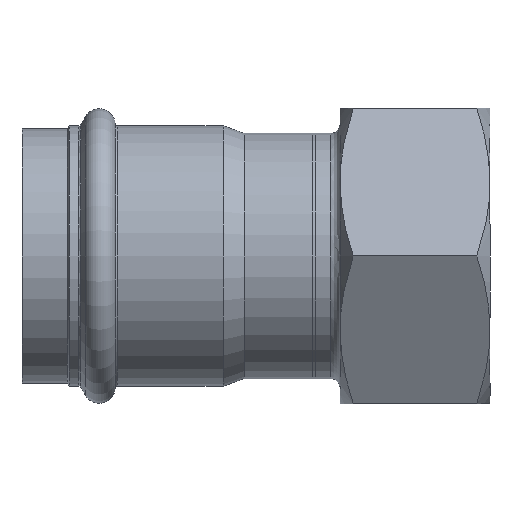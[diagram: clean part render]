
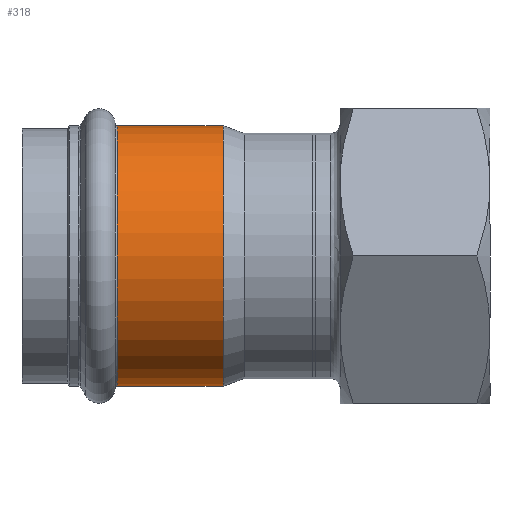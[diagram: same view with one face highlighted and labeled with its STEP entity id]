
A CAD part, front view. The second image highlights one B-rep face of the part: STEP entity #318.
In plain terms, the highlighted cylindrical face has radius 28.675 mm (diameter 57.35 mm), a full revolution.
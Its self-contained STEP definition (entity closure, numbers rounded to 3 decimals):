
#287=CARTESIAN_POINT('',(-32.009,28.675,0.));
#288=VERTEX_POINT('',#287);
#289=CARTESIAN_POINT('',(-32.009,0.0,0.0));
#290=DIRECTION('',(-1.0,0.0,0.0));
#291=DIRECTION('',(0.0,-1.0,0.0));
#292=AXIS2_PLACEMENT_3D('',#289,#290,#291);
#293=CIRCLE('',#292,28.675);
#294=EDGE_CURVE('',#288,#288,#293,.T.);
#299=CARTESIAN_POINT('',(-20.621,0.0,0.0));
#300=DIRECTION('',(1.0,0.0,0.0));
#301=DIRECTION('',(0.0,1.0,0.0));
#302=AXIS2_PLACEMENT_3D('',#299,#300,#301);
#303=CYLINDRICAL_SURFACE('',#302,28.675);
#304=CARTESIAN_POINT('',(-8.736,28.675,0.0));
#305=VERTEX_POINT('',#304);
#306=CARTESIAN_POINT('',(-8.736,0.0,0.0));
#307=DIRECTION('',(1.0,0.0,0.0));
#308=DIRECTION('',(0.0,1.0,0.0));
#309=AXIS2_PLACEMENT_3D('',#306,#307,#308);
#310=CIRCLE('',#309,28.675);
#311=EDGE_CURVE('',#305,#305,#310,.T.);
#312=ORIENTED_EDGE('',*,*,#311,.F.);
#313=EDGE_LOOP('',(#312));
#314=FACE_OUTER_BOUND('',#313,.T.);
#315=ORIENTED_EDGE('',*,*,#294,.F.);
#316=EDGE_LOOP('',(#315));
#317=FACE_BOUND('',#316,.T.);
#318=ADVANCED_FACE('',(#314,#317),#303,.T.);
